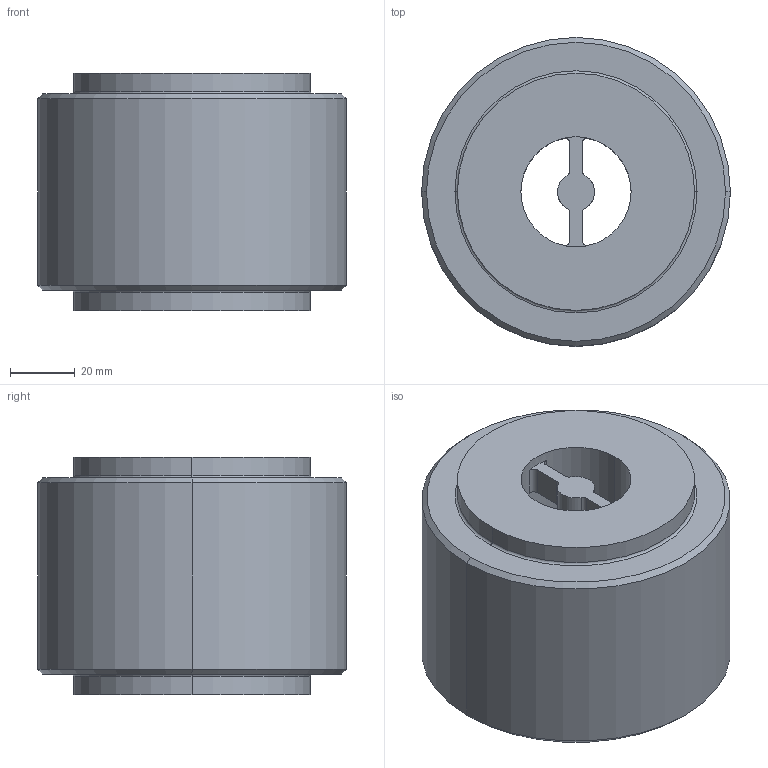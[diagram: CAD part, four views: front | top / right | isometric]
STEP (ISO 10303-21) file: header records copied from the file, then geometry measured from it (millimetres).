
FILE_DESCRIPTION (( 'STEP AP203' ), '1' );
FILE_NAME ('WLC 1.5-600.step', '2016-04-27T15:07:00', ( '' ), ( '' ), 'SwSTEP 2.0', 'SolidWorks 2015', '' );
FILE_SCHEMA (( 'CONFIG_CONTROL_DESIGN' ));
Length unit declared in the file: inch
Products named in the file (1): WLC 1.5-600
Bounding box: 95.25 x 95.25 x 73.15 mm (x, y, z)
Volume: 420508 mm3; surface area: 42436.2 mm2
Topology: 1 solids, 1 shells, 61 faces, 157 edges, 102 vertices
Faces by surface type: cylinder 33, plane 20, torus 4, cone 4
Entity records: 1988 total; most frequent: DIRECTION 371, CARTESIAN_POINT 321, ORIENTED_EDGE 314, EDGE_CURVE 157, AXIS2_PLACEMENT_3D 152, VERTEX_POINT 102, CIRCLE 90, EDGE_LOOP 71
